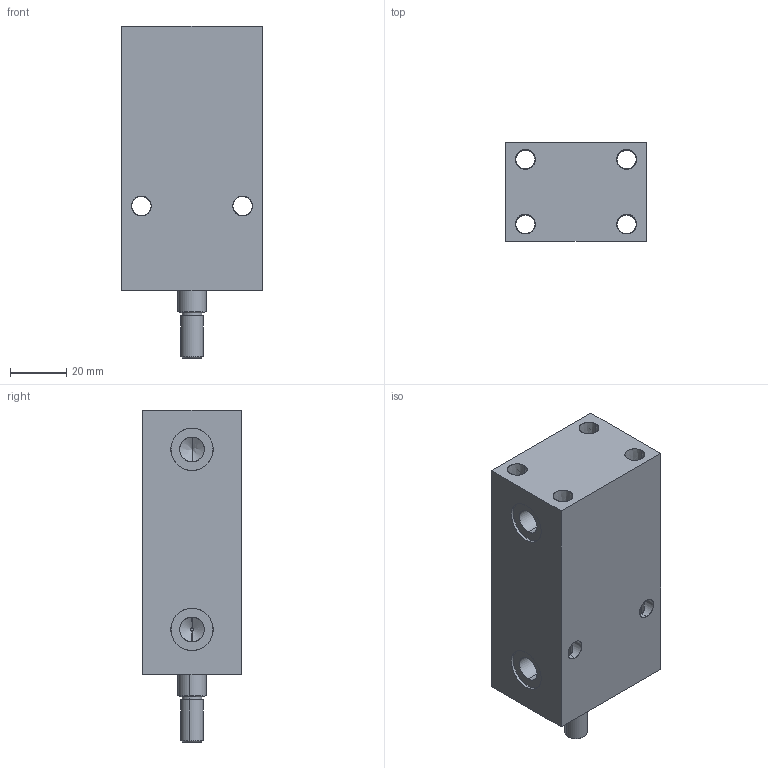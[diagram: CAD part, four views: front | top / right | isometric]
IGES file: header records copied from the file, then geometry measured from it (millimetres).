
Start section: SolidWorks IGES file using analytic representation for surfaces
Global section: file name: D:\karuppas\Clasp\3D model\Block cylinder B01C-Male thread - Copy\B01C-005M\Block cylinder B01C-0050M.IGS; native system: SolidWorks 2017; preprocessor: SolidWorks 2017; author: pc; date: 220709.232400; units: millimetre
Bounding box: 50 x 35 x 118 mm (x, y, z)
Surface area: 34376.3 mm2 (no closed solid volume)
Topology: 0 solids, 0 shells, 372 faces, 5855 edges, 5853 vertices
Faces by surface type: bspline 318, revolution 54
